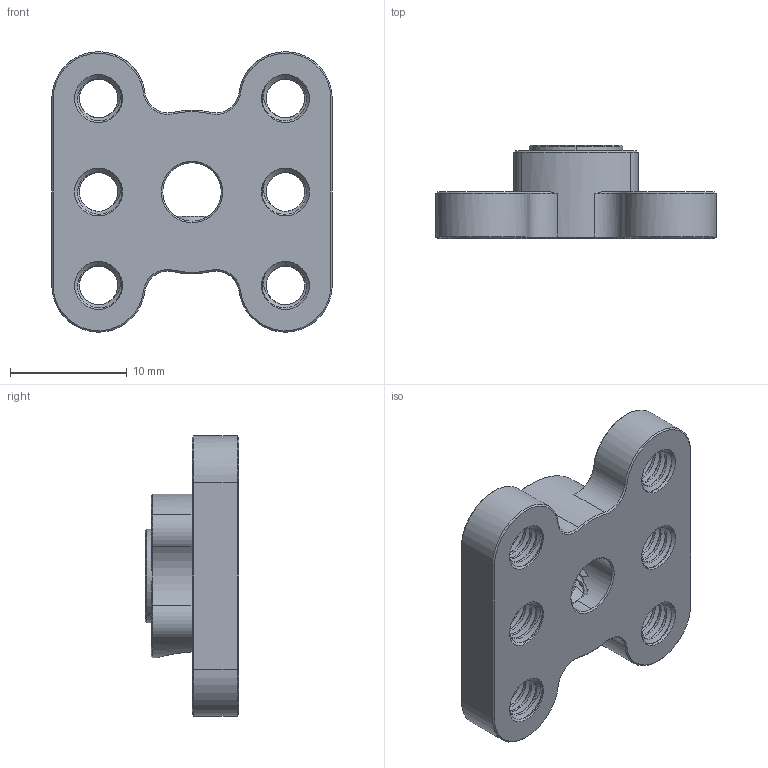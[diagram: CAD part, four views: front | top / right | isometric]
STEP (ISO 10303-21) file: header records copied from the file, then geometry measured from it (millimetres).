
FILE_DESCRIPTION (( 'STEP AP203' ), '1' );
FILE_NAME ('1314-0016-0005 assembly.STEP', '2022-12-08T19:17:33', ( '' ), ( '' ), 'SwSTEP 2.0', 'SolidWorks 2016', '' );
FILE_SCHEMA (( 'CONFIG_CONTROL_DESIGN' ));
Length unit declared in the file: millimetre
Products named in the file (3): 2806-0005-0004_91390A117; 1314-0016-0005 assembly; 1314-0016-0005
Assembly tree (2 placements, depth 2):
  1314-0016-0005 assembly
    1314-0016-0005
    2806-0005-0004_91390A117
Bounding box: 24 x 8 x 24 mm (x, y, z)
Volume: 1885.4 mm3; surface area: 2032.9 mm2
Topology: 2 solids, 2 shells, 337 faces, 940 edges, 605 vertices
Faces by surface type: cylinder 202, cone 84, bspline 26, plane 25
Entity records: 30837 total; most frequent: CARTESIAN_POINT 23149, ORIENTED_EDGE 1872, DIRECTION 1267, EDGE_CURVE 936, VERTEX_POINT 605, AXIS2_PLACEMENT_3D 490, EDGE_LOOP 355, FACE_OUTER_BOUND 337
